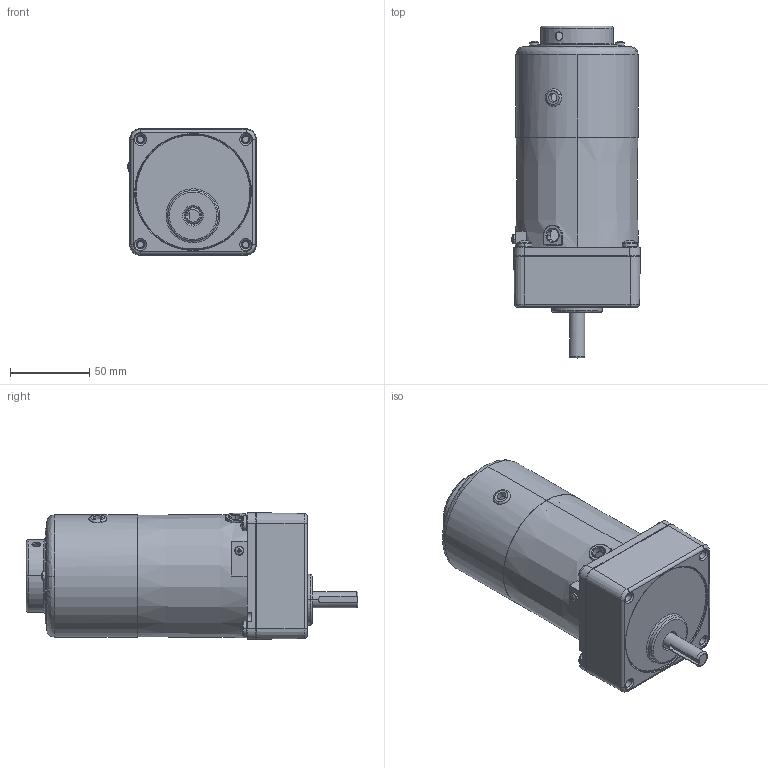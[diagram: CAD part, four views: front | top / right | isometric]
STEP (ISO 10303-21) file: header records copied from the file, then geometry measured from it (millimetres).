
FILE_DESCRIPTION (( 'STEP AP203' ), '1' );
FILE_NAME ('4RK25RGN-CM(4GN3K-18K).STEP', '2020-04-14T08:24:38', ( 'Windows 蚚誧' ), ( '' ), 'SwSTEP 2.0', 'SolidWorks 2019', '' );
FILE_SCHEMA (( 'CONFIG_CONTROL_DESIGN' ));
Length unit declared in the file: millimetre
Products named in the file (17): 4RK25GN-CM(4GN3K-18K).STEP; PRT235.STEP; PRT0229_AF1.STEP; 3IK15RA-C_AF0^3ik15ra-c_asm(2)_70TSZ; PRT233.STEP; ASM0016_AF0_ASM_ASM1.STEP; PRT0099^3ik15ra-c_asm(2)_70TSZ; PRT232.STEP; PRT237.STEP; PRT0101^3ik15ra-c_asm(2)_70TSZ; PRT4.STEP; PRT236.STEP; 3ik15ra-c_asm(2)^70TSZ; ASM0005_ASM1.STEP; 70TSZ; 4GN3-18K1.STEP; 4RK25RGN-CM(4GN3K-18K)
Assembly tree (19 placements, depth 5):
  4RK25RGN-CM(4GN3K-18K)
    4RK25GN-CM(4GN3K-18K).STEP
      ASM0005_ASM1.STEP
        ASM0016_AF0_ASM_ASM1.STEP
          PRT0229_AF1.STEP
        PRT237.STEP  x4
        PRT236.STEP
        PRT235.STEP
        PRT233.STEP
        PRT232.STEP
        PRT4.STEP
      4GN3-18K1.STEP
    70TSZ
      3ik15ra-c_asm(2)^70TSZ
        3IK15RA-C_AF0^3ik15ra-c_asm(2)_70TSZ
        PRT0099^3ik15ra-c_asm(2)_70TSZ
        PRT0101^3ik15ra-c_asm(2)_70TSZ
Bounding box: 81.32 x 209.8 x 80 mm (x, y, z)
Volume: 363747.9 mm3; surface area: 128693.7 mm2
Topology: 14 solids, 14 shells, 1651 faces, 3690 edges, 2087 vertices
Faces by surface type: cone 826, cylinder 471, plane 248, bspline 90, torus 12, sphere 4
Entity records: 37270 total; most frequent: CARTESIAN_POINT 9651, DIRECTION 5828, ORIENTED_EDGE 5206, EDGE_CURVE 2603, AXIS2_PLACEMENT_3D 2384, VERTEX_POINT 1526, CIRCLE 1300, EDGE_LOOP 1197
